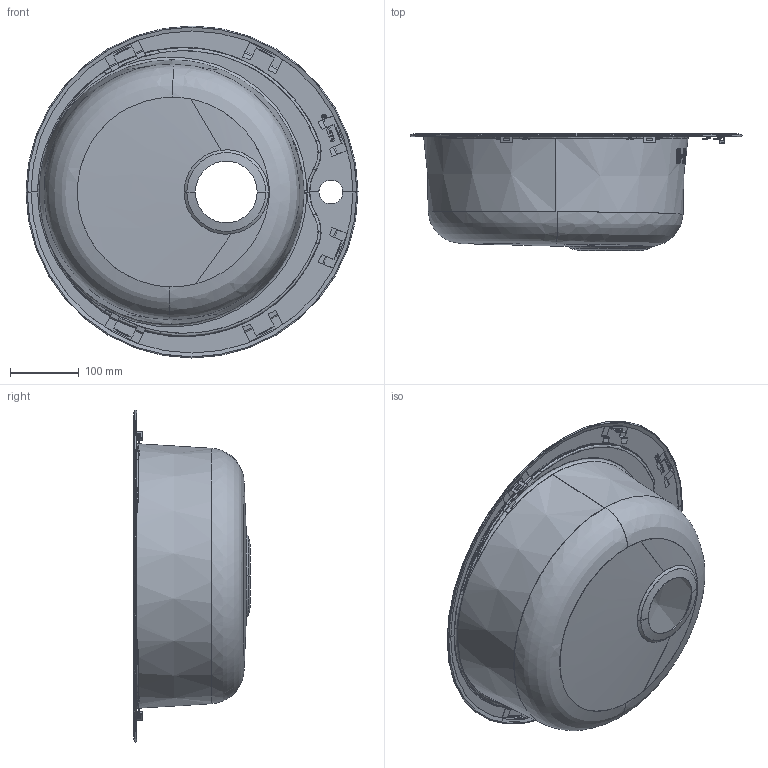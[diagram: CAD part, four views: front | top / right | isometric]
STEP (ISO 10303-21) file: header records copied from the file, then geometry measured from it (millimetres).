
FILE_DESCRIPTION (( 'STEP AP214' ), '1' );
FILE_NAME ('Kiba_100053704_100053812.STEP', '2021-02-08T13:49:51', ( '' ), ( '' ), 'SwSTEP 2.0', 'SolidWorks 2020', '' );
FILE_SCHEMA (( 'AUTOMOTIVE_DESIGN' ));
Length unit declared in the file: millimetre
Products named in the file (4): KIBA-IO_NBC.0450.385.1.027.01; Part1^KIBA_ASSEM; Kiba_100053704_100053812; NBC.0450.385.1.3D_GANTZAKI CR AGRFA
Assembly tree (7 placements, depth 2):
  Part1^KIBA_ASSEM
  Kiba_100053704_100053812
    KIBA-IO_NBC.0450.385.1.027.01
    NBC.0450.385.1.3D_GANTZAKI CR AGRFA  x6
Bounding box: 483.99 x 170.47 x 483.99 mm (x, y, z)
Volume: 243538.3 mm3; surface area: 701458.8 mm2
Topology: 7 solids, 7 shells, 586 faces, 1583 edges, 1017 vertices
Faces by surface type: plane 316, cylinder 164, bspline 61, cone 41, torus 4
Entity records: 23463 total; most frequent: CARTESIAN_POINT 15034, ORIENTED_EDGE 1992, DIRECTION 1394, EDGE_CURVE 996, VERTEX_POINT 627, LINE 518, VECTOR 518, AXIS2_PLACEMENT_3D 438
